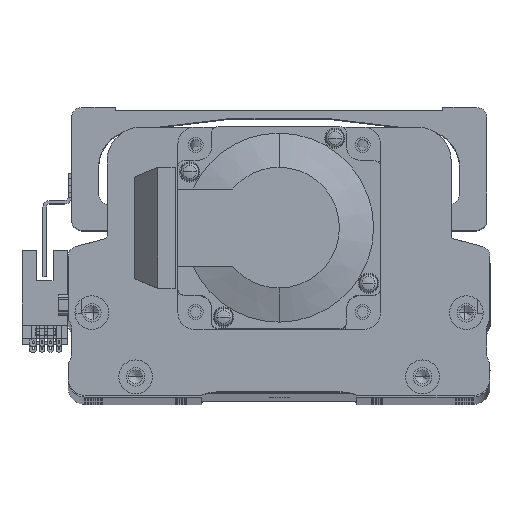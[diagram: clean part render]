
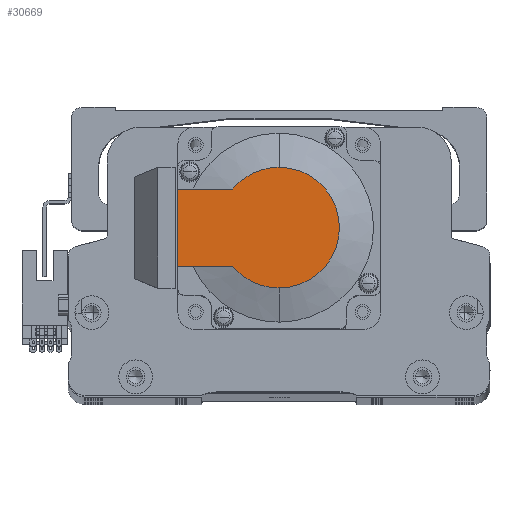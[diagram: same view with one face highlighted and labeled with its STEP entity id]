
A CAD part, top view. The second image highlights one B-rep face of the part: STEP entity #30669.
In plain terms, the highlighted planar face has unit normal (0, 0, 1) as drawn and (-1, 0, 0) by its records, which use the part's own axes.
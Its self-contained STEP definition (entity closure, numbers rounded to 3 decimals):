
#193 = ORIENTED_EDGE ( 'NONE', *, *, #30056, .T. ) ;
#587 = VERTEX_POINT ( 'NONE', #8741 ) ;
#1683 = DIRECTION ( 'NONE',  ( 0., 0., -1. ) ) ;
#3071 = VERTEX_POINT ( 'NONE', #33014 ) ;
#3933 = VECTOR ( 'NONE', #54331, 1000. ) ;
#5212 = CIRCLE ( 'NONE', #8746, 17.881 ) ;
#5333 = LINE ( 'NONE', #23903, #3933 ) ;
#6045 = CARTESIAN_POINT ( 'NONE',  ( -118.5, -8.941, -11.45 ) ) ;
#8432 = EDGE_CURVE ( 'NONE', #3071, #587, #52727, .T. ) ;
#8741 = CARTESIAN_POINT ( 'NONE',  ( -118.5, 13.735, 11.45 ) ) ;
#8746 = AXIS2_PLACEMENT_3D ( 'NONE', #53865, #27836, #1683 ) ;
#9231 = VECTOR ( 'NONE', #10471, 1000. ) ;
#10471 = DIRECTION ( 'NONE',  ( 0., -1., 0. ) ) ;
#10635 = LINE ( 'NONE', #6045, #9231 ) ;
#12223 = AXIS2_PLACEMENT_3D ( 'NONE', #17370, #47740, #21697 ) ;
#17370 = CARTESIAN_POINT ( 'NONE',  ( -118.5, -8.941, 0. ) ) ;
#18063 = AXIS2_PLACEMENT_3D ( 'NONE', #49054, #23022, #53455 ) ;
#19237 = FACE_OUTER_BOUND ( 'NONE', #38314, .T. ) ;
#19358 = EDGE_CURVE ( 'NONE', #30204, #587, #46750, .T. ) ;
#21683 = EDGE_CURVE ( 'NONE', #45320, #3071, #5333, .T. ) ;
#21697 = DIRECTION ( 'NONE',  ( 0., 0., 1. ) ) ;
#23022 = DIRECTION ( 'NONE',  ( -1., 0., 0. ) ) ;
#23903 = CARTESIAN_POINT ( 'NONE',  ( -118.5, 30., 25. ) ) ;
#25012 = ORIENTED_EDGE ( 'NONE', *, *, #29223, .T. ) ;
#25930 = DIRECTION ( 'NONE',  ( -1., 0., 0. ) ) ;
#27737 = CARTESIAN_POINT ( 'NONE',  ( -118.5, 30., -11.45 ) ) ;
#27836 = DIRECTION ( 'NONE',  ( -1., 0., 0. ) ) ;
#28696 = EDGE_CURVE ( 'NONE', #29576, #30204, #5212, .T. ) ;
#29223 = EDGE_CURVE ( 'NONE', #45320, #32707, #10635, .T. ) ;
#29576 = VERTEX_POINT ( 'NONE', #42740 ) ;
#29619 = VECTOR ( 'NONE', #55079, 1000. ) ;
#30056 = EDGE_CURVE ( 'NONE', #32707, #29576, #51916, .T. ) ;
#30204 = VERTEX_POINT ( 'NONE', #48579 ) ;
#30669 = ADVANCED_FACE ( 'NONE', ( #19237 ), #43206, .T. ) ;
#32707 = VERTEX_POINT ( 'NONE', #45378 ) ;
#33014 = CARTESIAN_POINT ( 'NONE',  ( -118.5, 30., 11.45 ) ) ;
#35149 = ORIENTED_EDGE ( 'NONE', *, *, #19358, .T. ) ;
#36156 = AXIS2_PLACEMENT_3D ( 'NONE', #52040, #25930, #56409 ) ;
#36849 = ORIENTED_EDGE ( 'NONE', *, *, #28696, .T. ) ;
#37763 = CARTESIAN_POINT ( 'NONE',  ( -118.5, 0., 11.45 ) ) ;
#38314 = EDGE_LOOP ( 'NONE', ( #25012, #193, #36849, #35149, #41607, #49306 ) ) ;
#41607 = ORIENTED_EDGE ( 'NONE', *, *, #8432, .F. ) ;
#42740 = CARTESIAN_POINT ( 'NONE',  ( -118.5, 0., -17.881 ) ) ;
#43206 = PLANE ( 'NONE',  #12223 ) ;
#45320 = VERTEX_POINT ( 'NONE', #27737 ) ;
#45378 = CARTESIAN_POINT ( 'NONE',  ( -118.5, 13.735, -11.45 ) ) ;
#46750 = CIRCLE ( 'NONE', #18063, 17.881 ) ;
#47740 = DIRECTION ( 'NONE',  ( -1., 0., 0. ) ) ;
#48579 = CARTESIAN_POINT ( 'NONE',  ( -118.5, 0., 17.881 ) ) ;
#49054 = CARTESIAN_POINT ( 'NONE',  ( -118.5, 0., 0. ) ) ;
#49306 = ORIENTED_EDGE ( 'NONE', *, *, #21683, .F. ) ;
#51916 = CIRCLE ( 'NONE', #36156, 17.881 ) ;
#52040 = CARTESIAN_POINT ( 'NONE',  ( -118.5, 0., 0. ) ) ;
#52727 = LINE ( 'NONE', #37763, #29619 ) ;
#53455 = DIRECTION ( 'NONE',  ( 0., 0., -1. ) ) ;
#53865 = CARTESIAN_POINT ( 'NONE',  ( -118.5, 0., 0. ) ) ;
#54331 = DIRECTION ( 'NONE',  ( 0., 0., 1. ) ) ;
#55079 = DIRECTION ( 'NONE',  ( 0., -1., 0. ) ) ;
#56409 = DIRECTION ( 'NONE',  ( 0., 0., -1. ) ) ;
